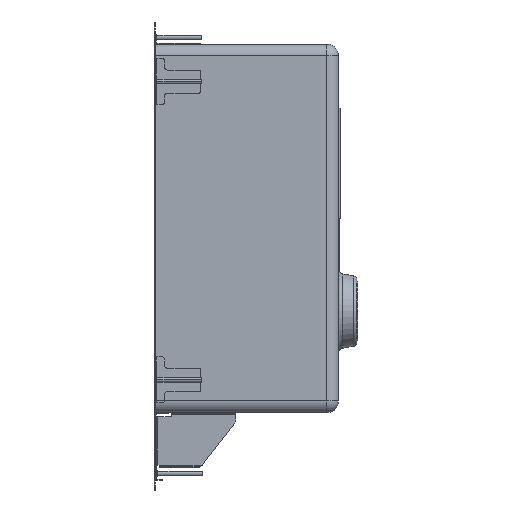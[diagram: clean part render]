
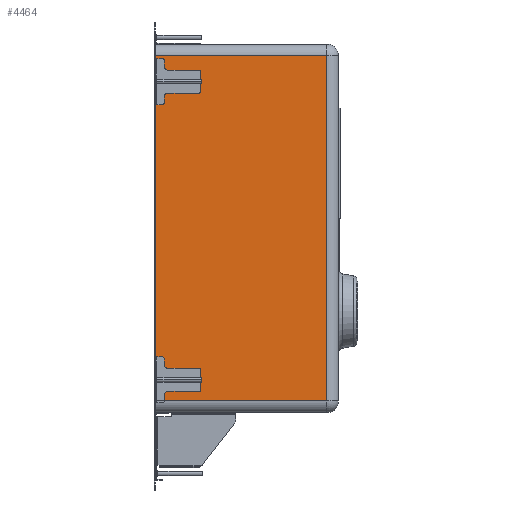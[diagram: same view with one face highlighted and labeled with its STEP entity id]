
A CAD part, left-side view. The second image highlights one B-rep face of the part: STEP entity #4464.
In plain terms, the highlighted planar face has unit normal (-1, 0, 0).
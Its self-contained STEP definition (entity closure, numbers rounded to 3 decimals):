
#297 = EDGE_CURVE ( 'NONE', #14906, #7130, #1850, .T. ) ;
#485 = PLANE ( 'NONE',  #12782 ) ;
#1366 = VECTOR ( 'NONE', #12424, 1000. ) ;
#1424 = LINE ( 'NONE', #5216, #1946 ) ;
#1850 = LINE ( 'NONE', #7121, #1366 ) ;
#1946 = VECTOR ( 'NONE', #9554, 1000. ) ;
#2806 = VECTOR ( 'NONE', #2959, 1000. ) ;
#2931 = EDGE_CURVE ( 'NONE', #14151, #14906, #1424, .T. ) ;
#2959 = DIRECTION ( 'NONE',  ( 0., 0., 1. ) ) ;
#3005 = DIRECTION ( 'NONE',  ( -1., 0., 0. ) ) ;
#3257 = ORIENTED_EDGE ( 'NONE', *, *, #2931, .F. ) ;
#3447 = EDGE_CURVE ( 'NONE', #7130, #6832, #14980, .T. ) ;
#3535 = CARTESIAN_POINT ( 'NONE',  ( 19.1, -0.9, 32. ) ) ;
#3756 = LINE ( 'NONE', #16996, #6016 ) ;
#4382 = CARTESIAN_POINT ( 'NONE',  ( 19.1, -188., 408. ) ) ;
#4464 = ADVANCED_FACE ( 'NONE', ( #9395 ), #485, .T. ) ;
#4486 = ORIENTED_EDGE ( 'NONE', *, *, #3447, .F. ) ;
#5216 = CARTESIAN_POINT ( 'NONE',  ( 19.1, -188., 20. ) ) ;
#5288 = CARTESIAN_POINT ( 'NONE',  ( 19.1, -0.9, 408. ) ) ;
#6016 = VECTOR ( 'NONE', #7548, 1000. ) ;
#6832 = VERTEX_POINT ( 'NONE', #5288 ) ;
#7068 = DIRECTION ( 'NONE',  ( 0., 0., 1. ) ) ;
#7121 = CARTESIAN_POINT ( 'NONE',  ( 19.1, -200., 32. ) ) ;
#7130 = VERTEX_POINT ( 'NONE', #3535 ) ;
#7548 = DIRECTION ( 'NONE',  ( 0., -1., 0. ) ) ;
#8027 = CARTESIAN_POINT ( 'NONE',  ( 19.1, -188., 32. ) ) ;
#9395 = FACE_OUTER_BOUND ( 'NONE', #13706, .T. ) ;
#9554 = DIRECTION ( 'NONE',  ( 0., 0., -1. ) ) ;
#10167 = ORIENTED_EDGE ( 'NONE', *, *, #297, .F. ) ;
#10916 = CARTESIAN_POINT ( 'NONE',  ( 19.1, -0.9, 0. ) ) ;
#12109 = CARTESIAN_POINT ( 'NONE',  ( 19.1, -200., 20. ) ) ;
#12424 = DIRECTION ( 'NONE',  ( 0., 1., 0. ) ) ;
#12553 = EDGE_CURVE ( 'NONE', #6832, #14151, #3756, .T. ) ;
#12782 = AXIS2_PLACEMENT_3D ( 'NONE', #12109, #3005, #7068 ) ;
#13479 = ORIENTED_EDGE ( 'NONE', *, *, #12553, .F. ) ;
#13706 = EDGE_LOOP ( 'NONE', ( #4486, #10167, #3257, #13479 ) ) ;
#14151 = VERTEX_POINT ( 'NONE', #4382 ) ;
#14906 = VERTEX_POINT ( 'NONE', #8027 ) ;
#14980 = LINE ( 'NONE', #10916, #2806 ) ;
#16996 = CARTESIAN_POINT ( 'NONE',  ( 19.1, -200., 408. ) ) ;
